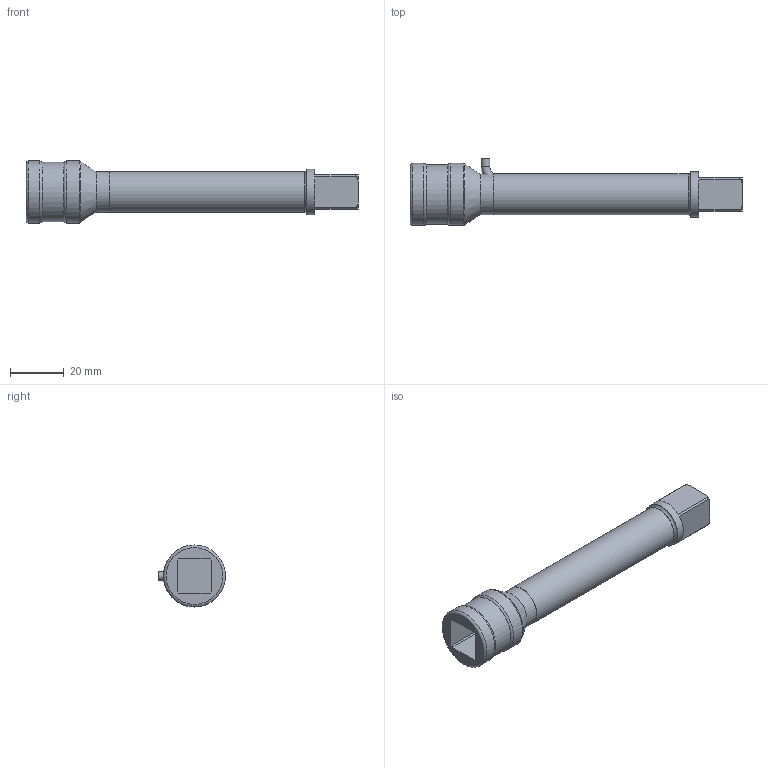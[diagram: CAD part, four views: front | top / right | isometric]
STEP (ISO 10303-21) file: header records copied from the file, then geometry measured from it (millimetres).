
FILE_DESCRIPTION(/* description */ ('Alibre Inc.'),/* implementation_level */ '2;1');
FILE_NAME(/* name */ 'export-F3E77427-5213-49DE-8E18-5B65837BD6D6',/* time_stamp */ '2023-01-17T08:38:18+01:00',/* author */ (''),/* organization */ (''),/* preprocessor_version */ 'ST-DEVELOPER v17',/* originating_system */ 'Alibre',/* authorisation */ '');
FILE_SCHEMA (('CONFIG_CONTROL_DESIGN'));
Length unit declared in the file: centimetre
Bounding box: 123 x 24.8 x 23 mm (x, y, z)
Volume: 48890 mm3; surface area: 22903.7 mm2
Topology: 4 solids, 4 shells, 77 faces, 185 edges, 118 vertices
Faces by surface type: plane 42, torus 19, cylinder 14, cone 2
Full cylindrical faces by diameter (mm): 3.2 x2, 15 x3, 15.2 x1, 17 x2, 22 x2, 23 x4
Entity records: 1720 total; most frequent: CARTESIAN_POINT 355, ORIENTED_EDGE 158, DIRECTION 157, EDGE_CURVE 79, AXIS2_PLACEMENT_3D 72, EDGE_LOOP 62, FACE_BOUND 62, VERTEX_POINT 59
